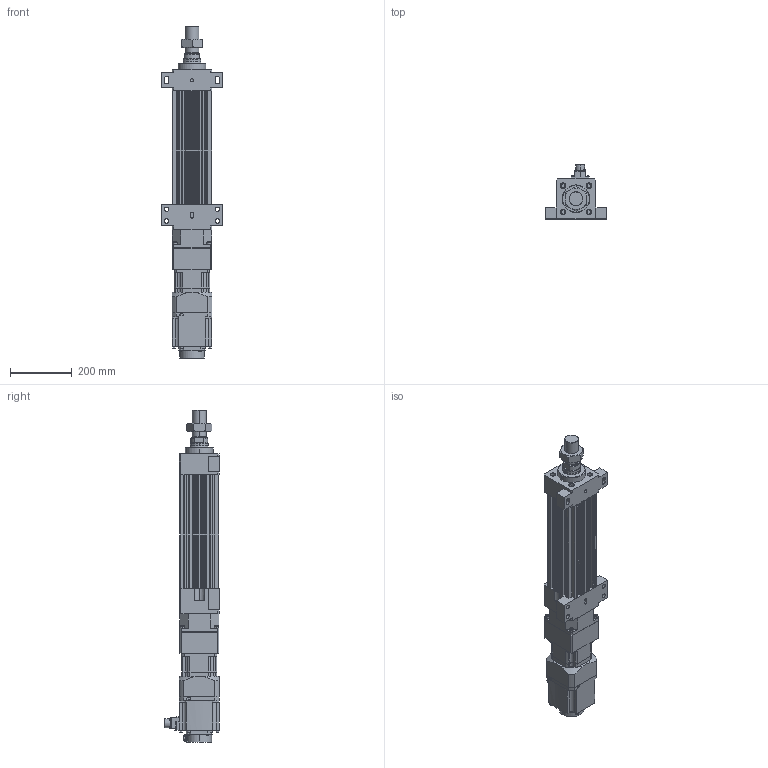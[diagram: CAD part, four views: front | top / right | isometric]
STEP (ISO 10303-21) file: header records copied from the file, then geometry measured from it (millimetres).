
FILE_DESCRIPTION (( 'STEP AP203' ), '1' );
FILE_NAME ('HES130NS(FS)(HS)-S150-W015G00-M-FFB.STEP', '2023-01-30T08:49:42', ( 'tms' ), ( '' ), 'SwSTEP 2.0', 'SolidWorks 2013', '' );
FILE_SCHEMA (( 'CONFIG_CONTROL_DESIGN' ));
Length unit declared in the file: millimetre
Products named in the file (8): AB115-003[HG-SR152]; AB1151; P0401400706; HES130-S150-G120-FFB; HES130 ROD M ST150; HES130NS(FS)(HS)-S150-W015G00-M-FFB; HG-SR152; M45X1.5P
Assembly tree (7 placements, depth 3):
  HES130NS(FS)(HS)-S150-W015G00-M-FFB
    HES130-S150-G120-FFB
    HES130 ROD M ST150
    M45X1.5P
    AB115-003[HG-SR152]
      AB1151
      P0401400706
    HG-SR152
Bounding box: 200 x 177.49 x 1079.5 mm (x, y, z)
Volume: 8626908.8 mm3; surface area: 1054666.6 mm2
Topology: 4 solids, 15 shells, 1211 faces, 3070 edges, 1998 vertices
Faces by surface type: plane 571, cylinder 546, cone 82, bspline 8, torus 4
Entity records: 38310 total; most frequent: CARTESIAN_POINT 7264, DIRECTION 6633, ORIENTED_EDGE 6092, EDGE_CURVE 3056, AXIS2_PLACEMENT_3D 2435, VERTEX_POINT 1998, LINE 1763, VECTOR 1763
